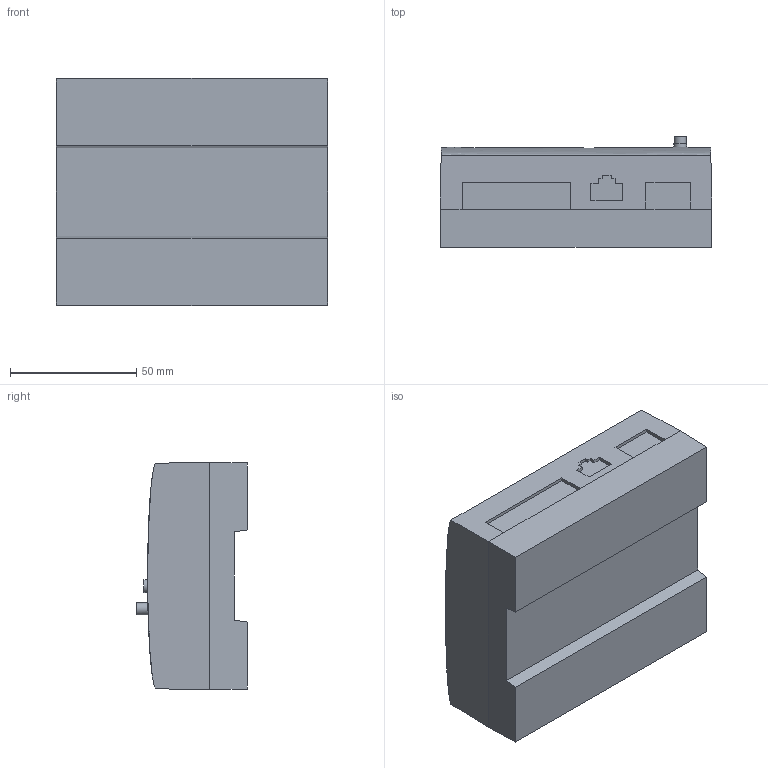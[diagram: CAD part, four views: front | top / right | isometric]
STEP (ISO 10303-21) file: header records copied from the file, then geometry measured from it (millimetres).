
FILE_DESCRIPTION(/* description */ ('STEP AP242','CAx-IF Rec.Pracs.---Representation and Presentation of Product Manufacturing Information (PMI)---4.0---2014-10-13','CAx-IF Rec.Pracs.---3D Tessellated Geometry---0.4---2014-09-14','2;1'),/* implementation_level */ '2;1');
FILE_NAME(/* name */ '6634dcdd7859092b1b9c2892',/* time_stamp */ '2024-05-03T12:47:26Z',/* author */ (''),/* organization */ (''),/* preprocessor_version */ 'ST-DEVELOPER v20',/* originating_system */ ' ',/* authorisation */ ' ');
FILE_SCHEMA (('AP242_MANAGED_MODEL_BASED_3D_ENGINEERING_MIM_LF { 1 0 10303 442 1 1 4 }'));
Length unit declared in the file: metre
Products named in the file (1): XPC
Bounding box: 107.5 x 43.84 x 90 mm (x, y, z)
Volume: 350592.9 mm3; surface area: 35151.1 mm2
Topology: 1 solids, 1 shells, 77 faces, 178 edges, 114 vertices
Faces by surface type: plane 58, cylinder 10, bspline 9
Full cylindrical faces by diameter (mm): 2.3 x8, 4.8 x1, 5.1 x1
Entity records: 2326 total; most frequent: CARTESIAN_POINT 673, ORIENTED_EDGE 332, DIRECTION 286, EDGE_CURVE 166, LINE 144, VECTOR 144, VERTEX_POINT 112, EDGE_LOOP 98
